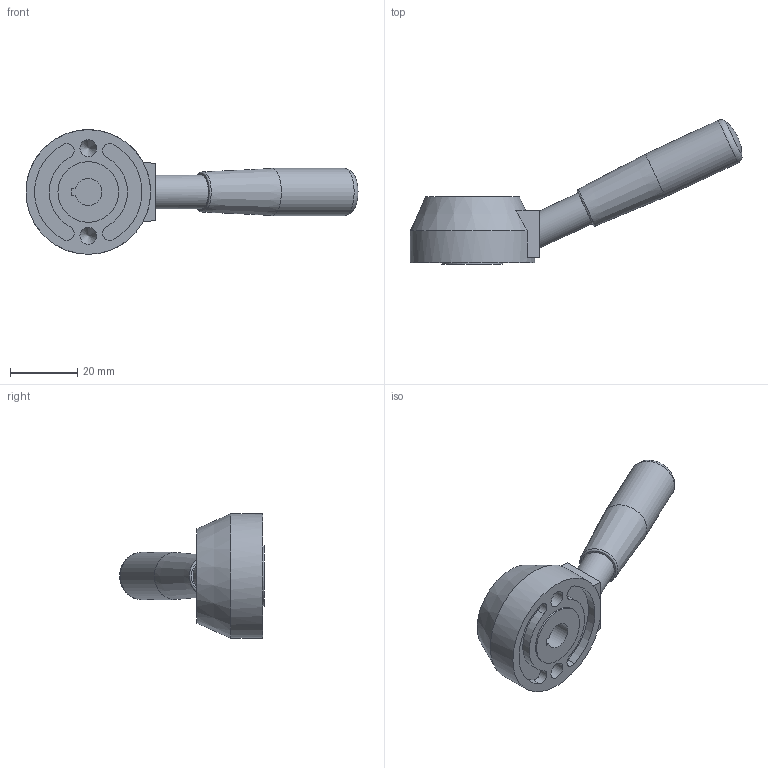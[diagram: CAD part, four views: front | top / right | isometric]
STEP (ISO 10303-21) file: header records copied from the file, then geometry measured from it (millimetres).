
FILE_DESCRIPTION( ( 'STEP AP203' ), '1' );
FILE_NAME( 'C:/Temp/Ganter_Step_05_03_2020/data/2_1/gn_512/gn_512_k/Control lever GN 512-37-K8.stp', '2020-03-05T11:51:38', ( 'License CC BY-ND 4.0' ), ( 'CADENAS' ), ' ', 'PARTsolutions', ' ' );
FILE_SCHEMA( ( 'CONFIG_CONTROL_DESIGN' ) );
Length unit declared in the file: millimetre
Products named in the file (1): _Control lever GN 512-37-K8
Bounding box: 98.59 x 42.95 x 37 mm (x, y, z)
Volume: 25285.9 mm3; surface area: 8068.3 mm2
Topology: 1 solids, 1 shells, 39 faces, 88 edges, 57 vertices
Faces by surface type: plane 16, cylinder 16, cone 4, torus 2, sphere 1
Full cylindrical faces by diameter (mm): 5 x2, 10 x1, 14 x1, 18 x1, 21 x1, 37 x1
Entity records: 1034 total; most frequent: DIRECTION 184, CARTESIAN_POINT 168, ORIENTED_EDGE 136, AXIS2_PLACEMENT_3D 78, EDGE_CURVE 68, EDGE_LOOP 59, VERTEX_POINT 54, FACE_OUTER_BOUND 48
